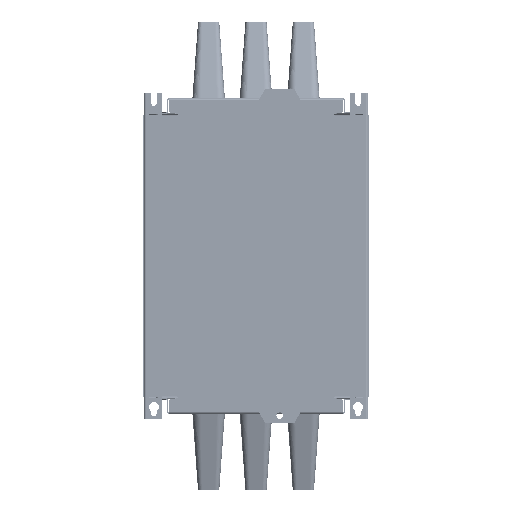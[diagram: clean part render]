
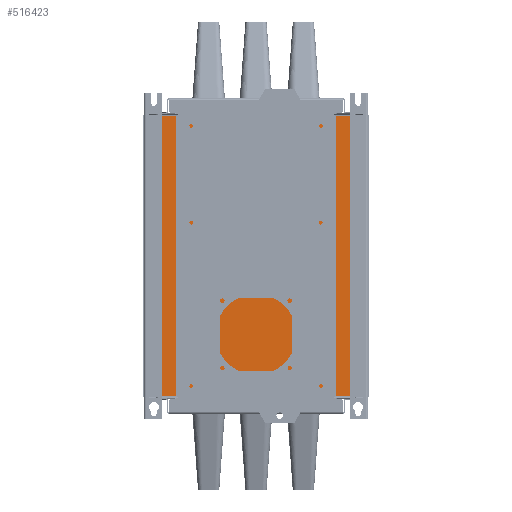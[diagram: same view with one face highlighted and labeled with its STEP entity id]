
A CAD part, front view. The second image highlights one B-rep face of the part: STEP entity #516423.
In plain terms, the highlighted planar face has unit normal (0, -1, 0).
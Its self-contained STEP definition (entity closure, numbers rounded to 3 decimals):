
#18296 = CARTESIAN_POINT ( 'NONE',  ( 87.5, 3.9, -172. ) ) ;
#19579 = CARTESIAN_POINT ( 'NONE',  ( -135.9, 3.9, 172. ) ) ;
#20213 = CARTESIAN_POINT ( 'NONE',  ( 87.5, 3.9, 172. ) ) ;
#20235 = CARTESIAN_POINT ( 'NONE',  ( -87.5, 3.9, -172. ) ) ;
#20737 = CARTESIAN_POINT ( 'NONE',  ( 135.9, 3.9, -172. ) ) ;
#21009 = CARTESIAN_POINT ( 'NONE',  ( -135.9, 3.9, -172. ) ) ;
#26914 = AXIS2_PLACEMENT_3D ( 'NONE', #39311, #41357, #39627 ) ;
#34870 = VECTOR ( 'NONE', #223791, 1000. ) ;
#34971 = LINE ( 'NONE', #222845, #34870 ) ;
#34987 = LINE ( 'NONE', #224449, #35020 ) ;
#35020 = VECTOR ( 'NONE', #223562, 1000. ) ;
#38129 = PLANE ( 'NONE',  #26914 ) ;
#39311 = CARTESIAN_POINT ( 'NONE',  ( -87.5, 3.9, -173.4 ) ) ;
#39627 = DIRECTION ( 'NONE',  ( 0., 0., 1. ) ) ;
#41357 = DIRECTION ( 'NONE',  ( 0., 1., 0. ) ) ;
#103165 = CARTESIAN_POINT ( 'NONE',  ( 135.9, 3.9, -172. ) ) ;
#104240 = DIRECTION ( 'NONE',  ( 1., 0., 0. ) ) ;
#107567 = EDGE_LOOP ( 'NONE', ( #278471, #280064, #279974, #282913, #282763, #281975, #282927, #279288 ) ) ;
#108851 = EDGE_CURVE ( 'NONE', #305664, #305401, #461984, .T. ) ;
#117666 = DIRECTION ( 'NONE',  ( 0., 0., -1. ) ) ;
#118179 = CARTESIAN_POINT ( 'NONE',  ( -135.9, 3.9, 172. ) ) ;
#124548 = EDGE_CURVE ( 'NONE', #305552, #208643, #453746, .T. ) ;
#124553 = EDGE_CURVE ( 'NONE', #307496, #305401, #455178, .T. ) ;
#124906 = EDGE_CURVE ( 'NONE', #208436, #305397, #454703, .T. ) ;
#178463 = FACE_OUTER_BOUND ( 'NONE', #107567, .T. ) ;
#208436 = VERTEX_POINT ( 'NONE', #544013 ) ;
#208643 = VERTEX_POINT ( 'NONE', #543061 ) ;
#222845 = CARTESIAN_POINT ( 'NONE',  ( 135.9, 3.9, 172. ) ) ;
#223562 = DIRECTION ( 'NONE',  ( -1., 0., 0. ) ) ;
#223791 = DIRECTION ( 'NONE',  ( -1., 0., 0. ) ) ;
#224449 = CARTESIAN_POINT ( 'NONE',  ( 135.9, 3.9, 172. ) ) ;
#267789 = VECTOR ( 'NONE', #117666, 1000. ) ;
#278471 = ORIENTED_EDGE ( 'NONE', *, *, #124553, .F. ) ;
#279288 = ORIENTED_EDGE ( 'NONE', *, *, #108851, .T. ) ;
#279974 = ORIENTED_EDGE ( 'NONE', *, *, #124548, .T. ) ;
#280064 = ORIENTED_EDGE ( 'NONE', *, *, #525875, .T. ) ;
#281975 = ORIENTED_EDGE ( 'NONE', *, *, #523862, .T. ) ;
#282763 = ORIENTED_EDGE ( 'NONE', *, *, #124906, .F. ) ;
#282913 = ORIENTED_EDGE ( 'NONE', *, *, #523815, .T. ) ;
#282927 = ORIENTED_EDGE ( 'NONE', *, *, #527290, .T. ) ;
#305397 = VERTEX_POINT ( 'NONE', #20213 ) ;
#305401 = VERTEX_POINT ( 'NONE', #20235 ) ;
#305552 = VERTEX_POINT ( 'NONE', #20737 ) ;
#305664 = VERTEX_POINT ( 'NONE', #21009 ) ;
#306006 = VERTEX_POINT ( 'NONE', #19579 ) ;
#307496 = VERTEX_POINT ( 'NONE', #18296 ) ;
#360017 = DIRECTION ( 'NONE',  ( 0., 0., 1. ) ) ;
#360472 = CARTESIAN_POINT ( 'NONE',  ( 135.9, 3.9, 172. ) ) ;
#360689 = DIRECTION ( 'NONE',  ( 1., 0., 0. ) ) ;
#360691 = CARTESIAN_POINT ( 'NONE',  ( 87.5, 3.9, 172. ) ) ;
#361633 = DIRECTION ( 'NONE',  ( -1., 0., 0. ) ) ;
#361642 = CARTESIAN_POINT ( 'NONE',  ( -87.5, 3.9, -172. ) ) ;
#435197 = LINE ( 'NONE', #103165, #435202 ) ;
#435202 = VECTOR ( 'NONE', #104240, 1000. ) ;
#437113 = LINE ( 'NONE', #118179, #267789 ) ;
#452115 = VECTOR ( 'NONE', #360689, 1000. ) ;
#453746 = LINE ( 'NONE', #360472, #455170 ) ;
#454662 = VECTOR ( 'NONE', #361633, 1000. ) ;
#454703 = LINE ( 'NONE', #360691, #452115 ) ;
#455170 = VECTOR ( 'NONE', #360017, 1000. ) ;
#455178 = LINE ( 'NONE', #361642, #454662 ) ;
#461378 = VECTOR ( 'NONE', #498960, 1000. ) ;
#461984 = LINE ( 'NONE', #498233, #461378 ) ;
#498233 = CARTESIAN_POINT ( 'NONE',  ( 135.9, 3.9, -172. ) ) ;
#498960 = DIRECTION ( 'NONE',  ( 1., 0., 0. ) ) ;
#516423 = ADVANCED_FACE ( 'NONE', ( #178463 ), #38129, .F. ) ;
#523815 = EDGE_CURVE ( 'NONE', #208643, #305397, #34971, .T. ) ;
#523862 = EDGE_CURVE ( 'NONE', #208436, #306006, #34987, .T. ) ;
#525875 = EDGE_CURVE ( 'NONE', #307496, #305552, #435197, .T. ) ;
#527290 = EDGE_CURVE ( 'NONE', #306006, #305664, #437113, .T. ) ;
#543061 = CARTESIAN_POINT ( 'NONE',  ( 135.9, 3.9, 172. ) ) ;
#544013 = CARTESIAN_POINT ( 'NONE',  ( -87.5, 3.9, 172. ) ) ;
